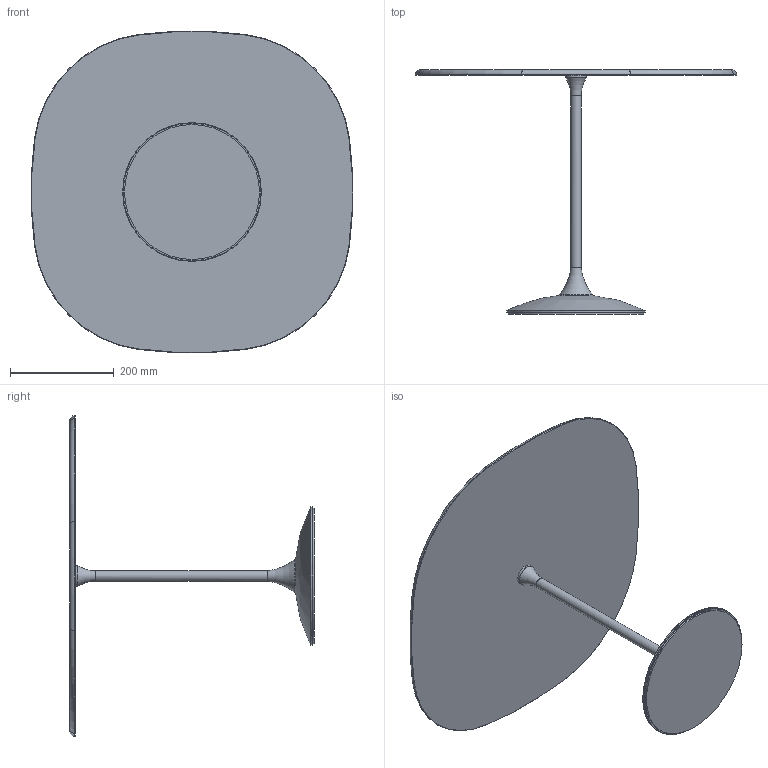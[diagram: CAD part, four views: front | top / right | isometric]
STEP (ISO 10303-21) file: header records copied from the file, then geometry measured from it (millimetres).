
FILE_DESCRIPTION((''),'2;1');
FILE_NAME('C:\AutodeskVault\AreaLavoro\Progetti\SoVeT Italia\2. Tavolini_Coffee tables\Tulip\Web file\Tulip Web\P4606.stp','2012-06-14T17:26:47',('Gianluca'),('So.Ve.T. s.r.l.'),'Autodesk Inventor 2013','Autodesk Inventor 2013','IL PROGETTO E'' DI ESCLUSIVA PROPRIETA'' DELLA SO.VE.T. srl. E'' VIETATA OGNI RIPRODUZIONE TOTALE O PARZIALE E QUALSIASI UTILIZZO NON AUTORIZZATO. ');
FILE_SCHEMA(('AUTOMOTIVE_DESIGN { 1 0 10303 214 1 1 1 1 }'));
Length unit declared in the file: millimetre
Products named in the file (1): P4606 LCTR Contorno semplificato
Bounding box: 618.44 x 470.45 x 618.44 mm (x, y, z)
Volume: 4700679.3 mm3; surface area: 815468.2 mm2
Topology: 1 solids, 1 shells, 40 faces, 85 edges, 50 vertices
Faces by surface type: torus 14, cone 14, plane 6, cylinder 5, bspline 1
Full cylindrical faces by diameter (mm): 20 x1, 40 x1, 60 x1, 260 x1, 267 x1
Entity records: 1066 total; most frequent: DIRECTION 196, CARTESIAN_POINT 174, ORIENTED_EDGE 124, AXIS2_PLACEMENT_3D 94, EDGE_CURVE 62, EDGE_LOOP 62, CIRCLE 54, VERTEX_POINT 45
